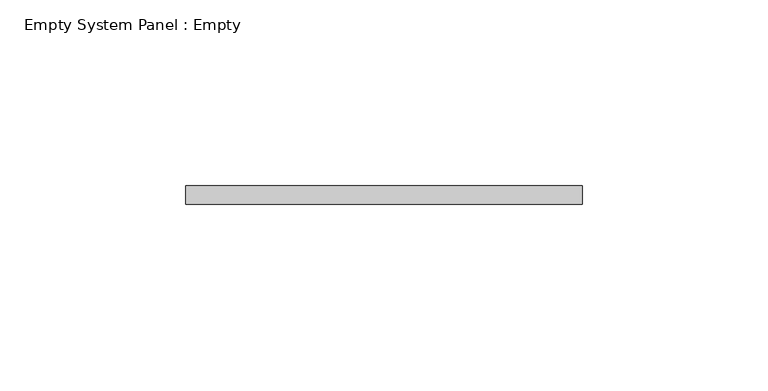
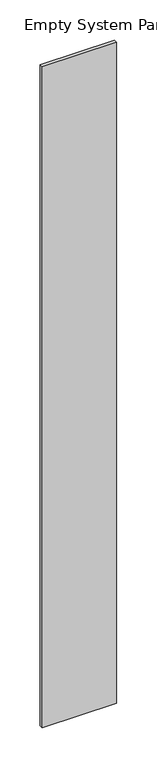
"""IFC4 building model written with IfcOpenShell, lengths in millimetres: plate geometry, Empty System Panel : Empty."""

from ifc_helpers import new_model, si_unit, origin, origin_with_axes, place, context, project, spatial, polyline, outline, extrude, source, transform, mapped, element, save


def empty_system_panel_empty_8461d5c4(model_context):
    return source(origin(), model_context, "Body", "SweptSolid", [
        extrude(outline(polyline([(53.3000002, 97.5), (-53.3000002, 97.5), (-53.3000002, 102.5), (53.3000002, 102.5), (53.3000002, 97.5)])), origin_with_axes(), (0.0, 0.0, 1.0), 1000.0),
    ])


if __name__ == "__main__":
    model = new_model("IFC4")
    model_context = context("Model", 3, world=origin())
    ifc_project = project(units=[si_unit("LENGTHUNIT", "METRE", prefix="MILLI")], contexts=[model_context])
    site = spatial("IfcSite", under=ifc_project)
    building = spatial("IfcBuilding", under=site)
    placement = place(None, origin())
    empty_system_panel_empty_shape = empty_system_panel_empty_8461d5c4(model_context)
    element("IfcPlate", 1, ObjectType="Empty System Panel : Empty", at=placement, inside=building, context=model_context, shape_type="MappedRepresentation", body=[
        mapped(empty_system_panel_empty_shape, transform((0.0, 0.0, 0.0), x_axis=(1.0, 0.0, 0.0), y_axis=(0.0, 1.0, 0.0), z_axis=(0.0, 0.0, 1.0))),
    ])
    save(model, "model.ifc")
